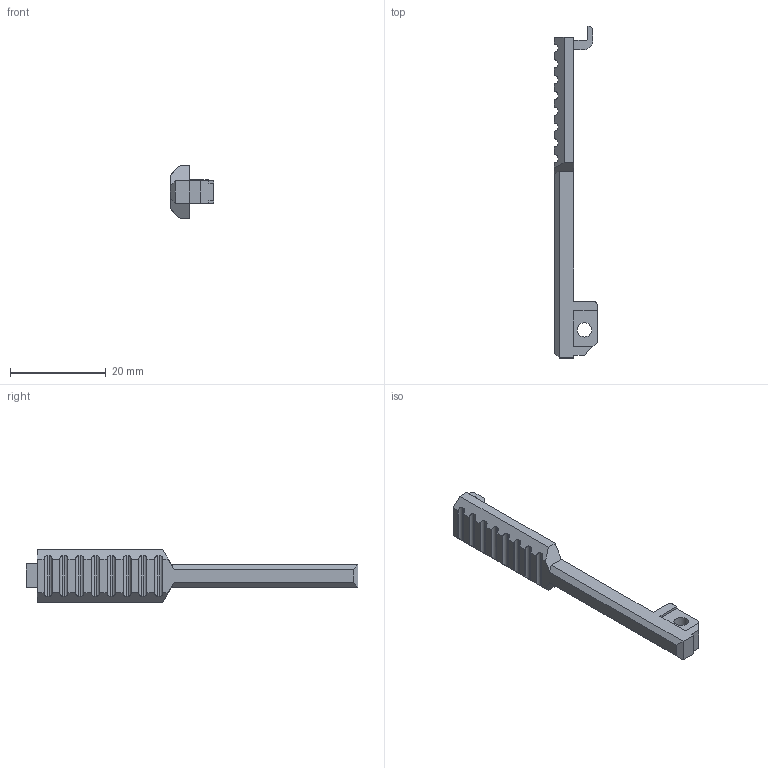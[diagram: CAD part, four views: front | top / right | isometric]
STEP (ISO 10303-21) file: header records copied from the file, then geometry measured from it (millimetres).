
FILE_DESCRIPTION(('HOOPS Exchange Step'),'2;1');
FILE_NAME('/private/var/mobile/Containers/Data/Application/B41F1AF9-3ED7-45D6-8FBD-F140B762F35E/tmp/export/temp_export','2026-08-08T09:08:08-05:00',('mobile'),('Shapr3D Limited'),'HOOPS Exchange 2026.3','Shapr3D','Authorized');
FILE_SCHEMA( ('AP242_MANAGED_MODEL_BASED_3D_ENGINEERING_MIM_LF {1 0 10303 442 1 1 4}') );
Length unit declared in the file: millimetre
Products named in the file (4): Flashlight button; DONE; Flashlight button R.step; root
Assembly tree (3 placements, depth 4):
  root
    Flashlight button R.step
      DONE
        Flashlight button
Bounding box: 9 x 69.36 x 11.02 mm (x, y, z)
Volume: 1548.5 mm3; surface area: 1920.5 mm2
Topology: 1 solids, 1 shells, 105 faces, 295 edges, 194 vertices
Faces by surface type: plane 79, cylinder 24, torus 2
Full cylindrical faces by diameter (mm): 3 x1
Entity records: 3408 total; most frequent: CARTESIAN_POINT 666, ORIENTED_EDGE 590, DIRECTION 509, EDGE_CURVE 295, VECTOR 243, LINE 243, VERTEX_POINT 194, AXIS2_PLACEMENT_3D 133
